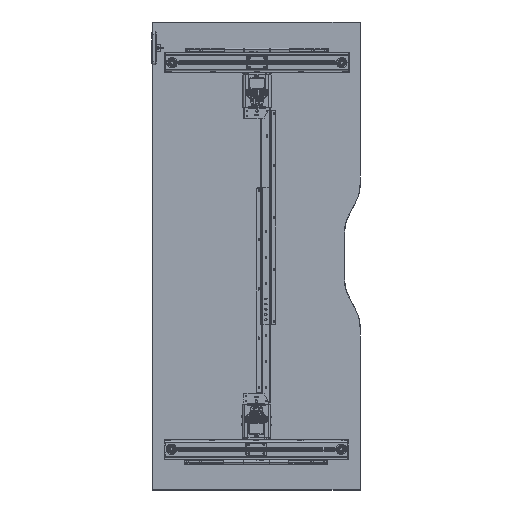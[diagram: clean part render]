
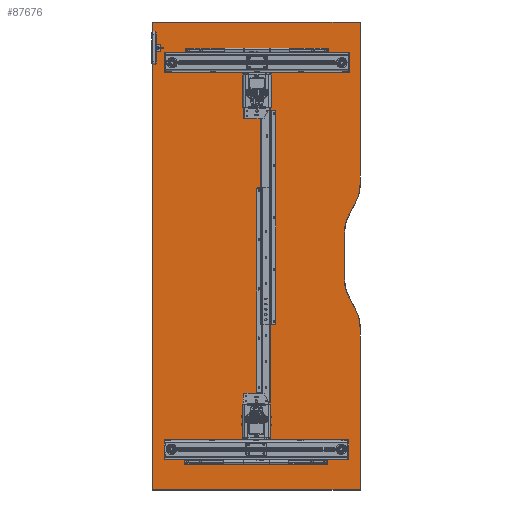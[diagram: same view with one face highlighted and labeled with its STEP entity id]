
A CAD part, front view. The second image highlights one B-rep face of the part: STEP entity #87676.
In plain terms, the highlighted planar face has unit normal (0, -1, 0).
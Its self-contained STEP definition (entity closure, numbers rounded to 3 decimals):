
#10584=LINE('',#191660,#18375);
#10586=LINE('',#191672,#18377);
#10588=LINE('',#191684,#18379);
#10590=LINE('',#191696,#18381);
#10591=LINE('',#191704,#18382);
#10593=LINE('',#191707,#18384);
#10595=LINE('',#191710,#18386);
#10599=LINE('',#191716,#18390);
#18375=VECTOR('',#121518,10.);
#18377=VECTOR('',#121532,10.);
#18379=VECTOR('',#121546,10.);
#18381=VECTOR('',#121560,10.);
#18382=VECTOR('',#121571,10.);
#18384=VECTOR('',#121575,10.);
#18386=VECTOR('',#121579,10.);
#18390=VECTOR('',#121587,10.);
#25015=FACE_OUTER_BOUND('',#30334,.T.);
#30334=EDGE_LOOP('',(#80239,#80240,#80241,#80242,#80243,#80244,#80245,#80246,
#80247,#80248,#80249,#80250));
#33969=CIRCLE('',#96515,149.);
#33973=CIRCLE('',#96521,151.);
#33977=CIRCLE('',#96527,151.);
#33981=CIRCLE('',#96533,149.);
#41968=VERTEX_POINT('',#191532);
#41971=VERTEX_POINT('',#191539);
#41977=VERTEX_POINT('',#191553);
#41983=VERTEX_POINT('',#191573);
#42007=VERTEX_POINT('',#191656);
#42009=VERTEX_POINT('',#191662);
#42011=VERTEX_POINT('',#191668);
#42013=VERTEX_POINT('',#191674);
#42015=VERTEX_POINT('',#191680);
#42017=VERTEX_POINT('',#191686);
#42019=VERTEX_POINT('',#191692);
#42021=VERTEX_POINT('',#191698);
#54727=EDGE_CURVE('',#41971,#42007,#10584,.T.);
#54730=EDGE_CURVE('',#42007,#42009,#33969,.T.);
#54733=EDGE_CURVE('',#42009,#42011,#10586,.T.);
#54736=EDGE_CURVE('',#42011,#42013,#33973,.T.);
#54739=EDGE_CURVE('',#42013,#42015,#10588,.T.);
#54742=EDGE_CURVE('',#42015,#42017,#33977,.T.);
#54745=EDGE_CURVE('',#42017,#42019,#10590,.T.);
#54748=EDGE_CURVE('',#42019,#42021,#33981,.T.);
#54749=EDGE_CURVE('',#42021,#41983,#10591,.T.);
#54751=EDGE_CURVE('',#41983,#41977,#10593,.T.);
#54753=EDGE_CURVE('',#41977,#41968,#10595,.T.);
#54757=EDGE_CURVE('',#41968,#41971,#10599,.T.);
#80239=ORIENTED_EDGE('',*,*,#54727,.F.);
#80240=ORIENTED_EDGE('',*,*,#54757,.F.);
#80241=ORIENTED_EDGE('',*,*,#54753,.F.);
#80242=ORIENTED_EDGE('',*,*,#54751,.F.);
#80243=ORIENTED_EDGE('',*,*,#54749,.F.);
#80244=ORIENTED_EDGE('',*,*,#54748,.F.);
#80245=ORIENTED_EDGE('',*,*,#54745,.F.);
#80246=ORIENTED_EDGE('',*,*,#54742,.F.);
#80247=ORIENTED_EDGE('',*,*,#54739,.F.);
#80248=ORIENTED_EDGE('',*,*,#54736,.F.);
#80249=ORIENTED_EDGE('',*,*,#54733,.F.);
#80250=ORIENTED_EDGE('',*,*,#54730,.F.);
#82726=PLANE('',#96551);
#87676=ADVANCED_FACE('',(#25015),#82726,.T.);
#96515=AXIS2_PLACEMENT_3D('',#191666,#121525,#121526);
#96521=AXIS2_PLACEMENT_3D('',#191678,#121539,#121540);
#96527=AXIS2_PLACEMENT_3D('',#191690,#121553,#121554);
#96533=AXIS2_PLACEMENT_3D('',#191702,#121567,#121568);
#96551=AXIS2_PLACEMENT_3D('',#191738,#121621,#121622);
#121518=DIRECTION('',(0.,0.,-1.));
#121525=DIRECTION('center_axis',(0.,1.,0.));
#121526=DIRECTION('ref_axis',(0.971,0.,-0.238));
#121532=DIRECTION('',(-0.463,0.,-0.887));
#121539=DIRECTION('center_axis',(0.,-1.,0.));
#121540=DIRECTION('ref_axis',(-0.971,0.,0.238));
#121546=DIRECTION('',(0.,0.,-1.));
#121553=DIRECTION('center_axis',(0.,-1.,0.));
#121554=DIRECTION('ref_axis',(-0.971,0.,-0.238));
#121560=DIRECTION('',(0.463,0.,-0.887));
#121567=DIRECTION('center_axis',(0.,1.,0.));
#121568=DIRECTION('ref_axis',(0.971,0.,0.238));
#121571=DIRECTION('',(0.,0.,-1.));
#121575=DIRECTION('',(-1.,0.,0.));
#121579=DIRECTION('',(0.,0.,1.));
#121587=DIRECTION('',(1.,0.,0.));
#121621=DIRECTION('center_axis',(0.,-1.,0.));
#121622=DIRECTION('ref_axis',(0.,0.,-1.));
#191532=CARTESIAN_POINT('',(-399.,725.,899.));
#191539=CARTESIAN_POINT('',(399.,725.,899.));
#191553=CARTESIAN_POINT('',(-399.,725.,-899.));
#191573=CARTESIAN_POINT('',(399.,725.,-899.));
#191656=CARTESIAN_POINT('',(399.,725.,276.778));
#191660=CARTESIAN_POINT('',(399.,725.,120.));
#191662=CARTESIAN_POINT('',(382.101,725.,207.856));
#191666=CARTESIAN_POINT('Origin',(250.,725.,276.778));
#191668=CARTESIAN_POINT('',(356.126,725.,158.069));
#191672=CARTESIAN_POINT('',(277.107,725.,6.618));
#191674=CARTESIAN_POINT('',(339.,725.,88.222));
#191678=CARTESIAN_POINT('Origin',(490.,725.,88.222));
#191680=CARTESIAN_POINT('',(339.,725.,-88.222));
#191684=CARTESIAN_POINT('',(339.,725.,-62.5));
#191686=CARTESIAN_POINT('',(356.126,725.,-158.069));
#191690=CARTESIAN_POINT('Origin',(490.,725.,-88.222));
#191692=CARTESIAN_POINT('',(382.101,725.,-207.856));
#191696=CARTESIAN_POINT('',(307.107,725.,-64.118));
#191698=CARTESIAN_POINT('',(399.,725.,-276.778));
#191702=CARTESIAN_POINT('Origin',(250.,725.,-276.778));
#191704=CARTESIAN_POINT('',(399.,725.,-450.));
#191707=CARTESIAN_POINT('',(-200.,725.,-899.));
#191710=CARTESIAN_POINT('',(-399.,725.,450.));
#191716=CARTESIAN_POINT('',(200.,725.,899.));
#191738=CARTESIAN_POINT('Origin',(0.,725.,0.));
